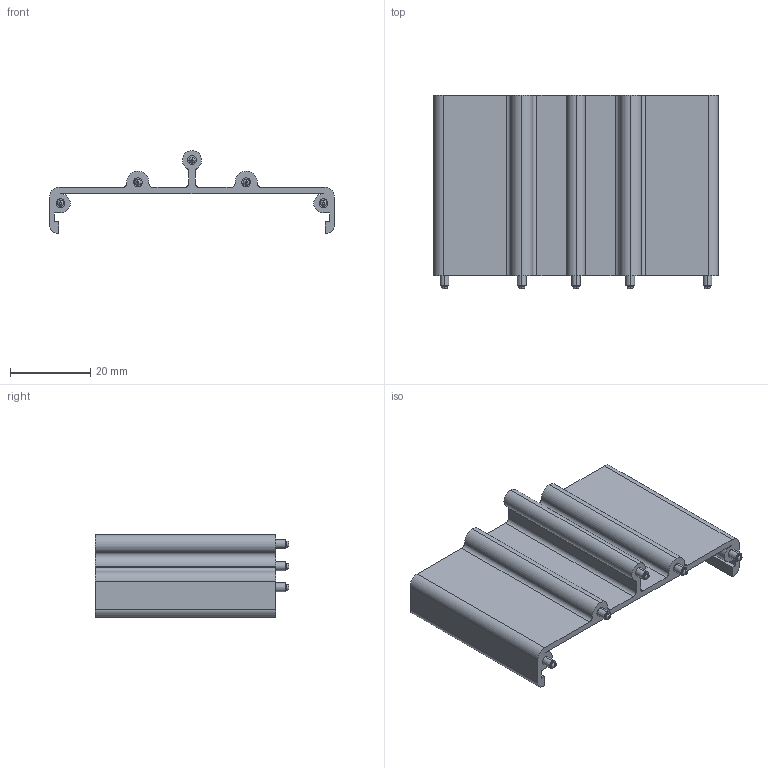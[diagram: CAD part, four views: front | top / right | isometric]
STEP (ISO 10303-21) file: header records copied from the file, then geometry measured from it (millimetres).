
FILE_DESCRIPTION (( 'STEP AP203' ), '1' );
FILE_NAME ('SP7-E45.STEP', '2019-09-12T16:52:14', ( '' ), ( '' ), 'SwSTEP 2.0', 'SolidWorks 2012', '' );
FILE_SCHEMA (( 'CONFIG_CONTROL_DESIGN' ));
Length unit declared in the file: millimetre
Products named in the file (1): SP7-E45
Bounding box: 71 x 48.3 x 20.65 mm (x, y, z)
Volume: 10630 mm3; surface area: 10570.4 mm2
Topology: 1 solids, 1 shells, 115 faces, 269 edges, 176 vertices
Faces by surface type: cylinder 60, plane 45, torus 10
Entity records: 3420 total; most frequent: DIRECTION 641, CARTESIAN_POINT 561, ORIENTED_EDGE 538, EDGE_CURVE 269, AXIS2_PLACEMENT_3D 256, VERTEX_POINT 176, CIRCLE 140, EDGE_LOOP 135
